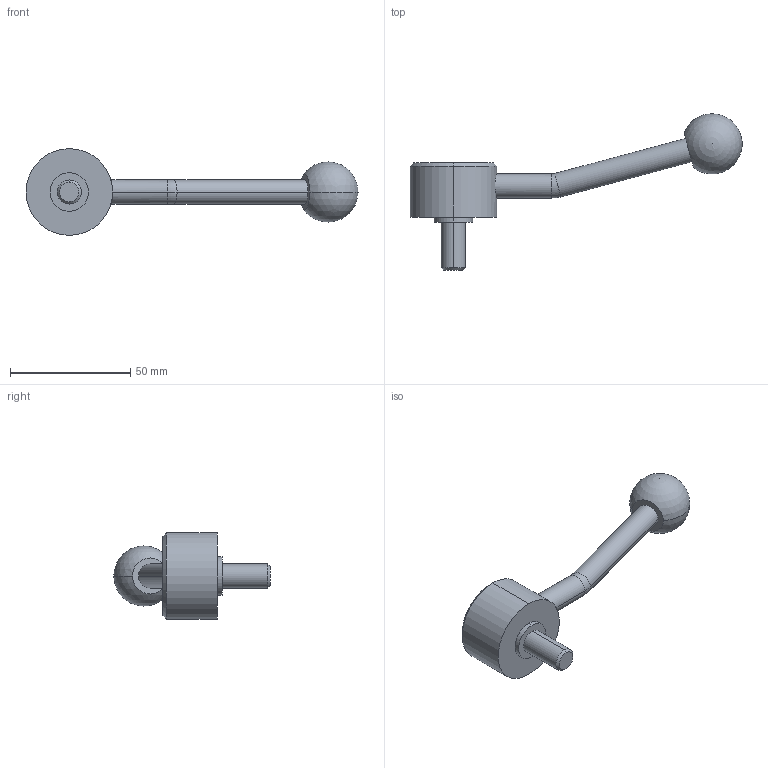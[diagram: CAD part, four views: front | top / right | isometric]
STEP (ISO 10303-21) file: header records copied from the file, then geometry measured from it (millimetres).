
FILE_DESCRIPTION (( 'STEP AP214' ), '1' );
FILE_NAME ('125.5-36-M10-20-E.step', '2020-02-18T11:31:04', ( '' ), ( '' ), 'SwSTEP 2.0', 'SolidWorks 2019', '' );
FILE_SCHEMA (( 'AUTOMOTIVE_DESIGN' ));
Length unit declared in the file: millimetre
Products named in the file (1): 125.5-36-M10-20-E
Bounding box: 137.95 x 65 x 36 mm (x, y, z)
Volume: 39222.7 mm3; surface area: 9566 mm2
Topology: 1 solids, 1 shells, 26 faces, 55 edges, 34 vertices
Faces by surface type: cylinder 12, plane 6, cone 4, torus 2, sphere 2
Entity records: 840 total; most frequent: CARTESIAN_POINT 182, DIRECTION 134, ORIENTED_EDGE 100, AXIS2_PLACEMENT_3D 59, EDGE_CURVE 50, CIRCLE 32, EDGE_LOOP 31, VERTEX_POINT 31
